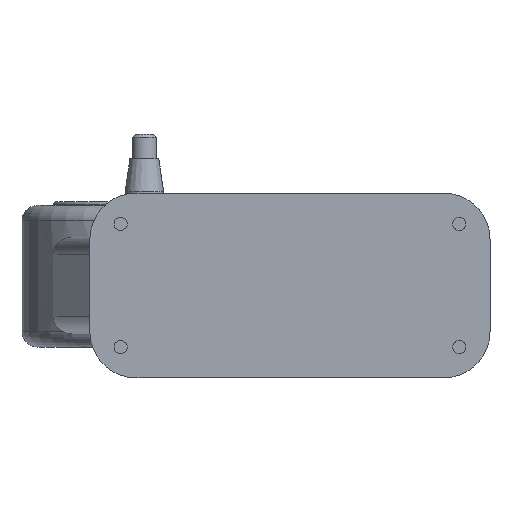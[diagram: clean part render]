
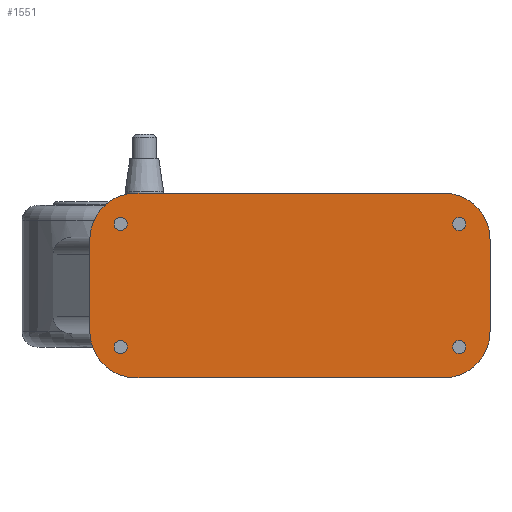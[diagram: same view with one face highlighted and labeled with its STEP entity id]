
A CAD part, front view. The second image highlights one B-rep face of the part: STEP entity #1551.
In plain terms, the highlighted planar face has unit normal (0, -1, 0).
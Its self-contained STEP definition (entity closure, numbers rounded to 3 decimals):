
#53 = EDGE_CURVE ( 'NONE', #567, #1975, #1909, .T. ) ;
#90 = ORIENTED_EDGE ( 'NONE', *, *, #1844, .F. ) ;
#121 = ORIENTED_EDGE ( 'NONE', *, *, #1451, .F. ) ;
#141 = AXIS2_PLACEMENT_3D ( 'NONE', #1955, #1944, #1941 ) ;
#143 = LINE ( 'NONE', #1270, #428 ) ;
#177 = ORIENTED_EDGE ( 'NONE', *, *, #53, .T. ) ;
#180 = VERTEX_POINT ( 'NONE', #1641 ) ;
#183 = AXIS2_PLACEMENT_3D ( 'NONE', #1215, #1639, #1627 ) ;
#225 = CARTESIAN_POINT ( 'NONE',  ( 127.581, 0., 60. ) ) ;
#234 = EDGE_LOOP ( 'NONE', ( #960, #90 ) ) ;
#239 = CIRCLE ( 'NONE', #399, 30. ) ;
#254 = CARTESIAN_POINT ( 'NONE',  ( 97.581, 0., 30. ) ) ;
#257 = EDGE_CURVE ( 'NONE', #1400, #1377, #1688, .T. ) ;
#262 = CARTESIAN_POINT ( 'NONE',  ( -132.419, 0., 30. ) ) ;
#298 = FACE_BOUND ( 'NONE', #1943, .T. ) ;
#334 = VERTEX_POINT ( 'NONE', #262 ) ;
#343 = EDGE_CURVE ( 'NONE', #517, #2176, #1334, .T. ) ;
#399 = AXIS2_PLACEMENT_3D ( 'NONE', #1429, #1407, #1404 ) ;
#412 = VERTEX_POINT ( 'NONE', #1011 ) ;
#417 = DIRECTION ( 'NONE',  ( 1., 0., 0. ) ) ;
#423 = DIRECTION ( 'NONE',  ( 0., -1., 0. ) ) ;
#424 = CARTESIAN_POINT ( 'NONE',  ( 107.581, 0., 40. ) ) ;
#428 = VECTOR ( 'NONE', #813, 1000. ) ;
#456 = CIRCLE ( 'NONE', #1280, 4.25 ) ;
#457 = VERTEX_POINT ( 'NONE', #1978 ) ;
#512 = EDGE_CURVE ( 'NONE', #1238, #412, #1476, .T. ) ;
#517 = VERTEX_POINT ( 'NONE', #819 ) ;
#520 = DIRECTION ( 'NONE',  ( 1., 0., 0. ) ) ;
#539 = AXIS2_PLACEMENT_3D ( 'NONE', #1609, #1276, #1380 ) ;
#548 = EDGE_CURVE ( 'NONE', #334, #567, #1535, .T. ) ;
#564 = EDGE_CURVE ( 'NONE', #1400, #1577, #1414, .T. ) ;
#567 = VERTEX_POINT ( 'NONE', #1428 ) ;
#585 = AXIS2_PLACEMENT_3D ( 'NONE', #1919, #2132, #520 ) ;
#595 = CARTESIAN_POINT ( 'NONE',  ( -132.419, 0., 60. ) ) ;
#597 = EDGE_CURVE ( 'NONE', #180, #457, #850, .T. ) ;
#608 = DIRECTION ( 'NONE',  ( 0., -1., 0. ) ) ;
#639 = CARTESIAN_POINT ( 'NONE',  ( 97.581, 0., -60. ) ) ;
#684 = FACE_OUTER_BOUND ( 'NONE', #1648, .T. ) ;
#690 = ORIENTED_EDGE ( 'NONE', *, *, #257, .T. ) ;
#710 = AXIS2_PLACEMENT_3D ( 'NONE', #788, #1788, #830 ) ;
#725 = CARTESIAN_POINT ( 'NONE',  ( -102.419, 0., -30. ) ) ;
#734 = DIRECTION ( 'NONE',  ( 1., 0., 0. ) ) ;
#738 = DIRECTION ( 'NONE',  ( 0., -1., 0. ) ) ;
#744 = DIRECTION ( 'NONE',  ( -1., 0., 0. ) ) ;
#759 = CARTESIAN_POINT ( 'NONE',  ( -112.419, 0., -40. ) ) ;
#773 = EDGE_CURVE ( 'NONE', #1975, #778, #1439, .T. ) ;
#778 = VERTEX_POINT ( 'NONE', #639 ) ;
#788 = CARTESIAN_POINT ( 'NONE',  ( -112.419, 0., 40. ) ) ;
#813 = DIRECTION ( 'NONE',  ( 1., 0., 0. ) ) ;
#819 = CARTESIAN_POINT ( 'NONE',  ( 111.831, 0., 40. ) ) ;
#830 = DIRECTION ( 'NONE',  ( 1., 0., 0. ) ) ;
#841 = DIRECTION ( 'NONE',  ( 0., 0., -1. ) ) ;
#842 = ORIENTED_EDGE ( 'NONE', *, *, #343, .F. ) ;
#850 = CIRCLE ( 'NONE', #710, 4.25 ) ;
#872 = DIRECTION ( 'NONE',  ( 1., 0., 0. ) ) ;
#901 = DIRECTION ( 'NONE',  ( 0., -1., 0. ) ) ;
#902 = EDGE_CURVE ( 'NONE', #2176, #517, #1091, .T. ) ;
#920 = ORIENTED_EDGE ( 'NONE', *, *, #1872, .T. ) ;
#929 = CARTESIAN_POINT ( 'NONE',  ( 107.581, 0., -40. ) ) ;
#935 = DIRECTION ( 'NONE',  ( 0., -1., 0. ) ) ;
#942 = AXIS2_PLACEMENT_3D ( 'NONE', #1951, #1906, #1874 ) ;
#960 = ORIENTED_EDGE ( 'NONE', *, *, #1275, .F. ) ;
#1011 = CARTESIAN_POINT ( 'NONE',  ( -108.169, 0., -40. ) ) ;
#1043 = CARTESIAN_POINT ( 'NONE',  ( 127.581, 0., 30. ) ) ;
#1075 = CARTESIAN_POINT ( 'NONE',  ( 111.831, 0., -40. ) ) ;
#1091 = CIRCLE ( 'NONE', #2142, 4.25 ) ;
#1139 = ORIENTED_EDGE ( 'NONE', *, *, #1592, .T. ) ;
#1141 = CARTESIAN_POINT ( 'NONE',  ( 97.581, 0., 60. ) ) ;
#1180 = FACE_BOUND ( 'NONE', #234, .T. ) ;
#1186 = ORIENTED_EDGE ( 'NONE', *, *, #773, .T. ) ;
#1199 = EDGE_CURVE ( 'NONE', #2200, #1377, #143, .T. ) ;
#1215 = CARTESIAN_POINT ( 'NONE',  ( -132.419, 0., 60. ) ) ;
#1230 = EDGE_LOOP ( 'NONE', ( #1343, #2002 ) ) ;
#1236 = CARTESIAN_POINT ( 'NONE',  ( -116.669, 0., -40. ) ) ;
#1238 = VERTEX_POINT ( 'NONE', #1236 ) ;
#1270 = CARTESIAN_POINT ( 'NONE',  ( -132.419, 0., 60. ) ) ;
#1275 = EDGE_CURVE ( 'NONE', #2294, #2204, #1327, .T. ) ;
#1276 = DIRECTION ( 'NONE',  ( 0., -1., 0. ) ) ;
#1280 = AXIS2_PLACEMENT_3D ( 'NONE', #759, #738, #734 ) ;
#1313 = AXIS2_PLACEMENT_3D ( 'NONE', #254, #1988, #2003 ) ;
#1327 = CIRCLE ( 'NONE', #1808, 4.25 ) ;
#1334 = CIRCLE ( 'NONE', #539, 4.25 ) ;
#1343 = ORIENTED_EDGE ( 'NONE', *, *, #597, .F. ) ;
#1377 = VERTEX_POINT ( 'NONE', #1141 ) ;
#1380 = DIRECTION ( 'NONE',  ( 1., 0., 0. ) ) ;
#1387 = VECTOR ( 'NONE', #1489, 1000. ) ;
#1400 = VERTEX_POINT ( 'NONE', #1043 ) ;
#1404 = DIRECTION ( 'NONE',  ( -1., 0., 0. ) ) ;
#1407 = DIRECTION ( 'NONE',  ( 0., -1., 0. ) ) ;
#1414 = LINE ( 'NONE', #225, #2308 ) ;
#1428 = CARTESIAN_POINT ( 'NONE',  ( -132.419, 0., -30. ) ) ;
#1429 = CARTESIAN_POINT ( 'NONE',  ( 97.581, 0., -30. ) ) ;
#1439 = LINE ( 'NONE', #1483, #1387 ) ;
#1451 = EDGE_CURVE ( 'NONE', #412, #1238, #456, .T. ) ;
#1476 = CIRCLE ( 'NONE', #2107, 4.25 ) ;
#1482 = ORIENTED_EDGE ( 'NONE', *, *, #564, .F. ) ;
#1483 = CARTESIAN_POINT ( 'NONE',  ( -132.419, 0., -60. ) ) ;
#1489 = DIRECTION ( 'NONE',  ( 1., 0., 0. ) ) ;
#1497 = CARTESIAN_POINT ( 'NONE',  ( 127.581, 0., -30. ) ) ;
#1509 = DIRECTION ( 'NONE',  ( 1., 0., 0. ) ) ;
#1526 = CARTESIAN_POINT ( 'NONE',  ( -102.419, 0., -60. ) ) ;
#1535 = LINE ( 'NONE', #595, #1885 ) ;
#1543 = EDGE_LOOP ( 'NONE', ( #842, #1839 ) ) ;
#1551 = ADVANCED_FACE ( 'NONE', ( #298, #1180, #2137, #1664, #684 ), #1983, .F. ) ;
#1577 = VERTEX_POINT ( 'NONE', #1497 ) ;
#1586 = CIRCLE ( 'NONE', #585, 4.25 ) ;
#1592 = EDGE_CURVE ( 'NONE', #778, #1577, #239, .T. ) ;
#1602 = AXIS2_PLACEMENT_3D ( 'NONE', #725, #935, #744 ) ;
#1609 = CARTESIAN_POINT ( 'NONE',  ( 107.581, 0., 40. ) ) ;
#1627 = DIRECTION ( 'NONE',  ( -1., 0., 0. ) ) ;
#1639 = DIRECTION ( 'NONE',  ( 0., 1., 0. ) ) ;
#1641 = CARTESIAN_POINT ( 'NONE',  ( -108.169, 0., 40. ) ) ;
#1648 = EDGE_LOOP ( 'NONE', ( #1186, #1139, #1482, #690, #2231, #920, #1884, #177 ) ) ;
#1664 = FACE_BOUND ( 'NONE', #1230, .T. ) ;
#1688 = CIRCLE ( 'NONE', #1313, 30. ) ;
#1714 = CARTESIAN_POINT ( 'NONE',  ( 103.331, 0., -40. ) ) ;
#1721 = CARTESIAN_POINT ( 'NONE',  ( -102.419, 0., 60. ) ) ;
#1741 = CARTESIAN_POINT ( 'NONE',  ( 103.331, 0., 40. ) ) ;
#1788 = DIRECTION ( 'NONE',  ( 0., -1., 0. ) ) ;
#1808 = AXIS2_PLACEMENT_3D ( 'NONE', #929, #901, #872 ) ;
#1839 = ORIENTED_EDGE ( 'NONE', *, *, #902, .F. ) ;
#1844 = EDGE_CURVE ( 'NONE', #2204, #2294, #1586, .T. ) ;
#1872 = EDGE_CURVE ( 'NONE', #2200, #334, #2221, .T. ) ;
#1874 = DIRECTION ( 'NONE',  ( -1., 0., 0. ) ) ;
#1884 = ORIENTED_EDGE ( 'NONE', *, *, #548, .T. ) ;
#1885 = VECTOR ( 'NONE', #2212, 1000. ) ;
#1889 = ORIENTED_EDGE ( 'NONE', *, *, #512, .F. ) ;
#1906 = DIRECTION ( 'NONE',  ( 0., -1., 0. ) ) ;
#1909 = CIRCLE ( 'NONE', #1602, 30. ) ;
#1919 = CARTESIAN_POINT ( 'NONE',  ( 107.581, 0., -40. ) ) ;
#1941 = DIRECTION ( 'NONE',  ( 1., 0., 0. ) ) ;
#1943 = EDGE_LOOP ( 'NONE', ( #121, #1889 ) ) ;
#1944 = DIRECTION ( 'NONE',  ( 0., -1., 0. ) ) ;
#1951 = CARTESIAN_POINT ( 'NONE',  ( -102.419, 0., 30. ) ) ;
#1955 = CARTESIAN_POINT ( 'NONE',  ( -112.419, 0., 40. ) ) ;
#1974 = CARTESIAN_POINT ( 'NONE',  ( -112.419, 0., -40. ) ) ;
#1975 = VERTEX_POINT ( 'NONE', #1526 ) ;
#1978 = CARTESIAN_POINT ( 'NONE',  ( -116.669, 0., 40. ) ) ;
#1983 = PLANE ( 'NONE',  #183 ) ;
#1988 = DIRECTION ( 'NONE',  ( 0., -1., 0. ) ) ;
#2002 = ORIENTED_EDGE ( 'NONE', *, *, #2123, .F. ) ;
#2003 = DIRECTION ( 'NONE',  ( -1., 0., 0. ) ) ;
#2076 = CIRCLE ( 'NONE', #141, 4.25 ) ;
#2107 = AXIS2_PLACEMENT_3D ( 'NONE', #1974, #608, #1509 ) ;
#2123 = EDGE_CURVE ( 'NONE', #457, #180, #2076, .T. ) ;
#2132 = DIRECTION ( 'NONE',  ( 0., -1., 0. ) ) ;
#2137 = FACE_BOUND ( 'NONE', #1543, .T. ) ;
#2142 = AXIS2_PLACEMENT_3D ( 'NONE', #424, #423, #417 ) ;
#2176 = VERTEX_POINT ( 'NONE', #1741 ) ;
#2200 = VERTEX_POINT ( 'NONE', #1721 ) ;
#2204 = VERTEX_POINT ( 'NONE', #1714 ) ;
#2212 = DIRECTION ( 'NONE',  ( 0., 0., -1. ) ) ;
#2221 = CIRCLE ( 'NONE', #942, 30. ) ;
#2231 = ORIENTED_EDGE ( 'NONE', *, *, #1199, .F. ) ;
#2294 = VERTEX_POINT ( 'NONE', #1075 ) ;
#2308 = VECTOR ( 'NONE', #841, 1000. ) ;
